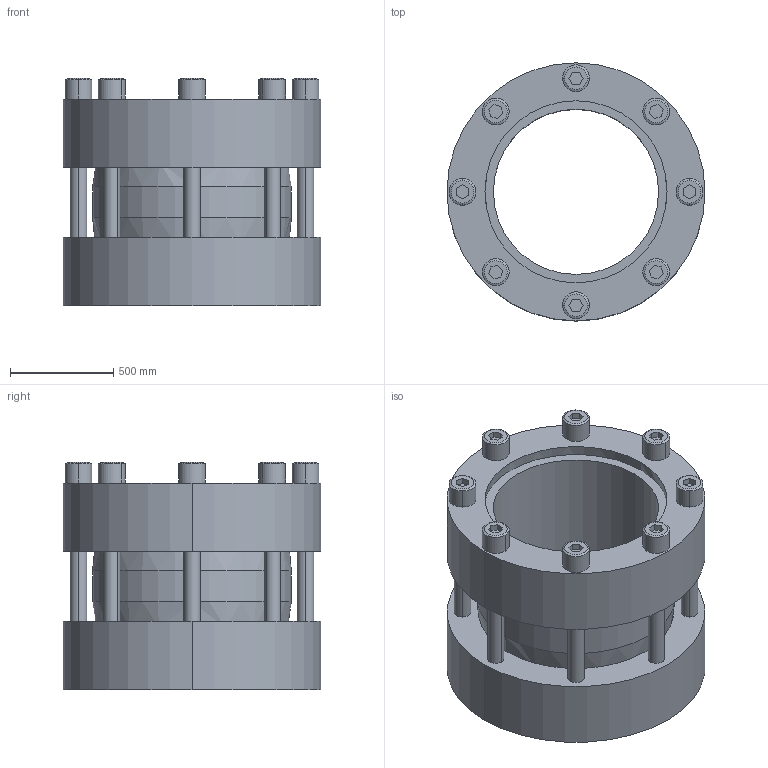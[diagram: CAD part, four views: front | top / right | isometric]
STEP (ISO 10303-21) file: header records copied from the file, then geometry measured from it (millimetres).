
FILE_DESCRIPTION (( 'STEP AP203' ), '1' );
FILE_NAME ('SM-080_.STEP', '2020-04-01T07:57:28', ( '' ), ( '' ), 'SwSTEP 2.0', 'SolidWorks 2018', '' );
FILE_SCHEMA (( 'CONFIG_CONTROL_DESIGN' ));
Length unit declared in the file: inch
Products named in the file (5): _U18; jhuih; SM-080_; _U17; SM-080
Assembly tree (11 placements, depth 4):
  SM-080_
    _U18
      _U17  x8
        jhuih
    SM-080
Bounding box: 1250 x 1250 x 1100 mm (x, y, z)
Volume: 555661662.9 mm3; surface area: 15371331.3 mm2
Topology: 19 solids, 19 shells, 190 faces, 414 edges, 270 vertices
Faces by surface type: plane 94, cylinder 72, cone 24
Entity records: 2997 total; most frequent: DIRECTION 454, CARTESIAN_POINT 379, ORIENTED_EDGE 352, AXIS2_PLACEMENT_3D 191, EDGE_CURVE 176, VERTEX_POINT 116, EDGE_LOOP 110, CIRCLE 104
